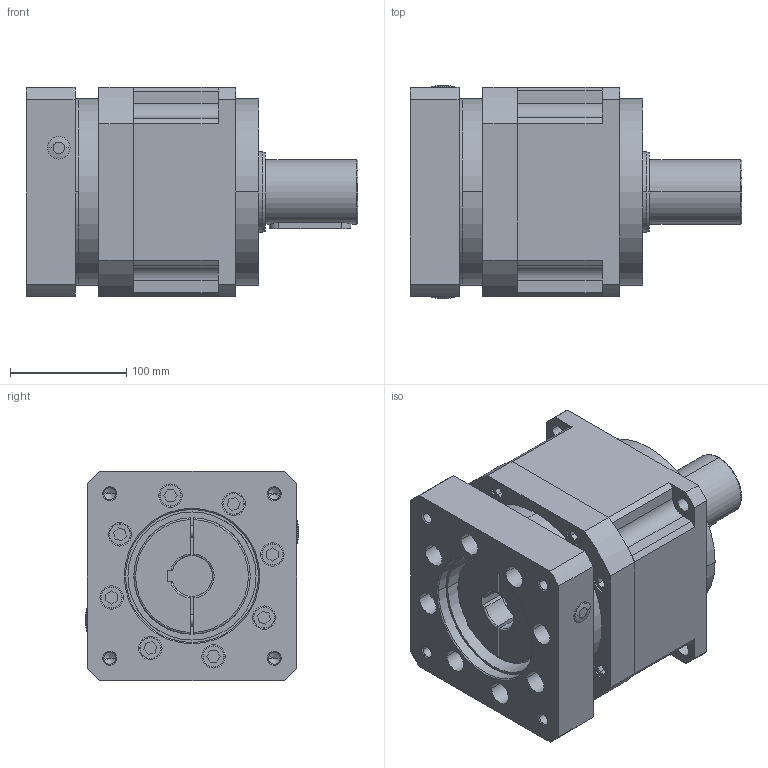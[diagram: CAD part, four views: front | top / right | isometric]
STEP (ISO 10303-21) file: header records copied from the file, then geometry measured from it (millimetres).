
FILE_DESCRIPTION (( 'STEP AP203' ), '1' );
FILE_NAME ('180-L1-35-114.3-200-M12(入力带键槽).STEP', '2020-06-08T10:24:59', ( 'ylmfeng' ), ( 'ylmfeng.com' ), 'SwSTEP 2.0', 'SolidWorks 2014', '' );
FILE_SCHEMA (( 'CONFIG_CONTROL_DESIGN' ));
Length unit declared in the file: millimetre
Products named in the file (1): 180-L1-35-114.3-200-M12(入力带键槽)
Bounding box: 285 x 183 x 180 mm (x, y, z)
Volume: 5447234.9 mm3; surface area: 458721.5 mm2
Topology: 28 solids, 28 shells, 568 faces, 1288 edges, 822 vertices
Faces by surface type: plane 266, cylinder 197, torus 63, cone 42
Entity records: 16743 total; most frequent: CARTESIAN_POINT 3479, DIRECTION 2920, ORIENTED_EDGE 2556, EDGE_CURVE 1278, AXIS2_PLACEMENT_3D 1109, VERTEX_POINT 822, LINE 702, VECTOR 702
